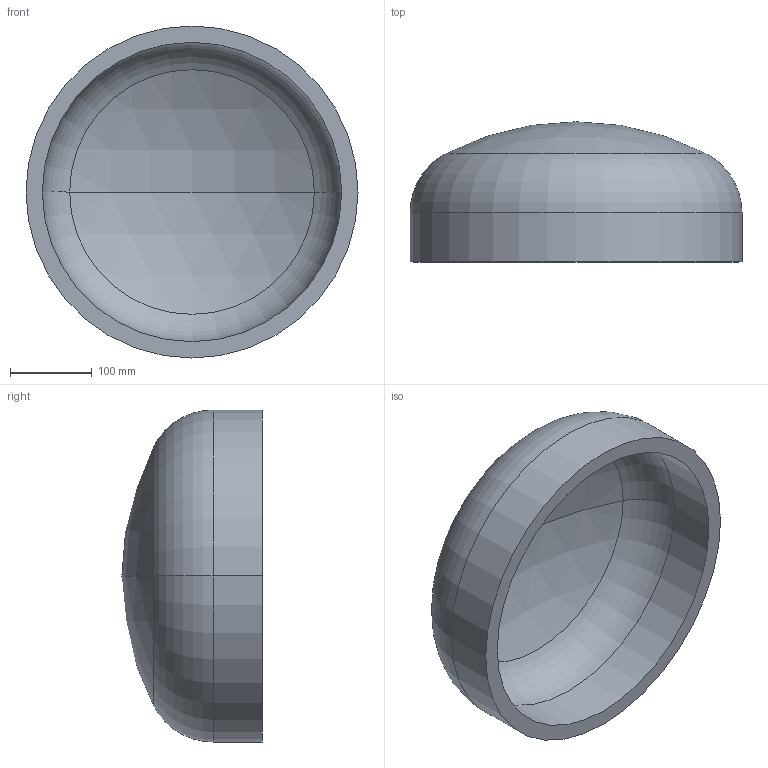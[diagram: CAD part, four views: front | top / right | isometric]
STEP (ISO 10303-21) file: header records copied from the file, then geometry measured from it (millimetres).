
FILE_DESCRIPTION (( 'STEP AP203' ), '1' );
FILE_NAME ('DIN 28013 Korbbogenform_-_Boden DIN 28013 - 406,4 x 60 - I - s=20.step', '2016-07-01T07:49:32', ( '' ), ( '' ), 'SwSTEP 2.0', 'SolidWorks 2013', '' );
FILE_SCHEMA (( 'CONFIG_CONTROL_DESIGN' ));
Length unit declared in the file: millimetre
Products named in the file (1): DIN 28013 Korbbogenform_-_Boden DIN 28013 - 406,4 x 60 - I - s=20
Bounding box: 406.4 x 171.59 x 406.4 mm (x, y, z)
Volume: 4823102.8 mm3; surface area: 507426.2 mm2
Topology: 1 solids, 1 shells, 13 faces, 24 edges, 14 vertices
Faces by surface type: torus 4, cylinder 4, sphere 4, plane 1
Entity records: 407 total; most frequent: DIRECTION 72, CARTESIAN_POINT 52, ORIENTED_EDGE 48, AXIS2_PLACEMENT_3D 34, EDGE_CURVE 24, CIRCLE 20, EDGE_LOOP 14, VERTEX_POINT 14
